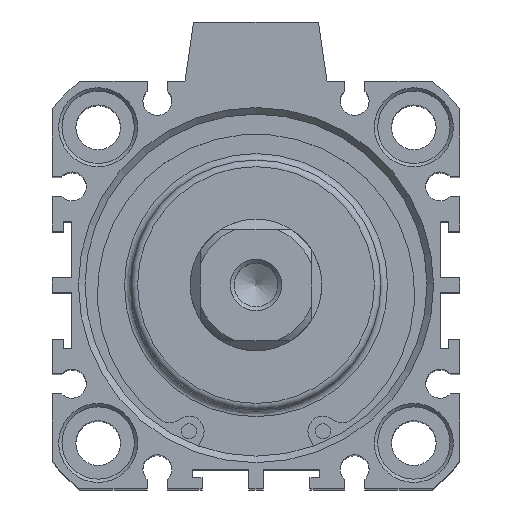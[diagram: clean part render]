
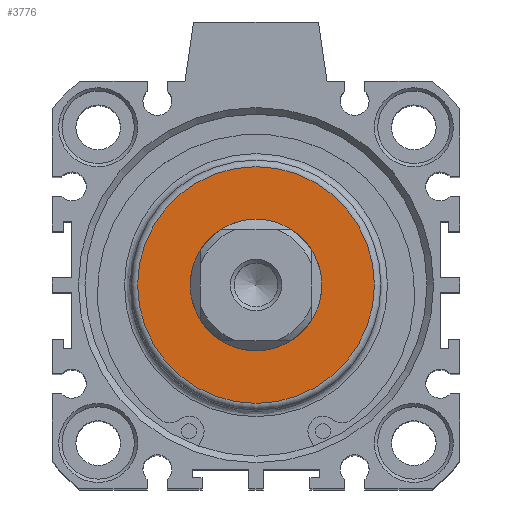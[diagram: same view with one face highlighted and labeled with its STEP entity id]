
A CAD part, top view. The second image highlights one B-rep face of the part: STEP entity #3776.
In plain terms, the highlighted planar face has unit normal (0, 0, 1).
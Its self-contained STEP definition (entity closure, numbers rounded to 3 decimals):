
#3276=CARTESIAN_POINT('',(-7.057,11.794,92.5));
#3277=VERTEX_POINT('',#3276);
#3278=CARTESIAN_POINT('',(-7.057,1.794,92.5));
#3279=DIRECTION('',(0.0,0.0,-1.0));
#3280=DIRECTION('',(0.0,1.0,0.0));
#3281=AXIS2_PLACEMENT_3D('',#3278,#3279,#3280);
#3282=CIRCLE('',#3281,10.);
#3283=EDGE_CURVE('',#3277,#3277,#3282,.T.);
#3750=CARTESIAN_POINT('',(-7.057,19.794,92.5));
#3751=VERTEX_POINT('',#3750);
#3752=CARTESIAN_POINT('',(-7.057,1.794,92.5));
#3753=DIRECTION('',(0.0,0.0,-1.0));
#3754=DIRECTION('',(0.0,-1.0,0.0));
#3755=AXIS2_PLACEMENT_3D('',#3752,#3753,#3754);
#3756=CIRCLE('',#3755,18.0);
#3757=EDGE_CURVE('',#3751,#3751,#3756,.T.);
#3765=CARTESIAN_POINT('',(-7.057,11.294,92.5));
#3766=DIRECTION('',(0.0,0.0,1.0));
#3767=DIRECTION('',(1.0,0.0,0.0));
#3768=AXIS2_PLACEMENT_3D('',#3765,#3766,#3767);
#3769=PLANE('',#3768);
#3770=ORIENTED_EDGE('',*,*,#3757,.F.);
#3771=EDGE_LOOP('',(#3770));
#3772=FACE_OUTER_BOUND('',#3771,.T.);
#3773=ORIENTED_EDGE('',*,*,#3283,.T.);
#3774=EDGE_LOOP('',(#3773));
#3775=FACE_BOUND('',#3774,.T.);
#3776=ADVANCED_FACE('',(#3772,#3775),#3769,.T.);
